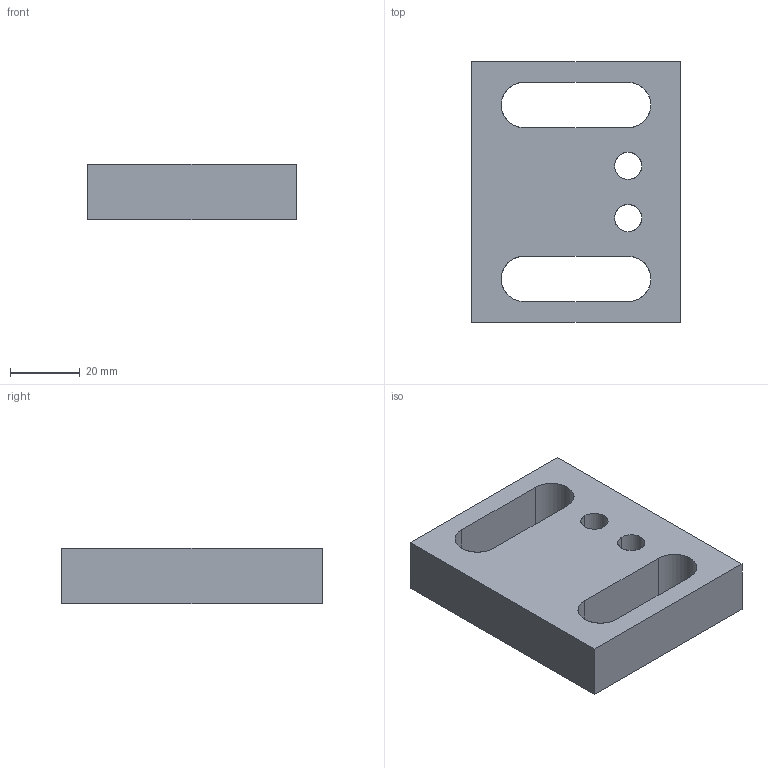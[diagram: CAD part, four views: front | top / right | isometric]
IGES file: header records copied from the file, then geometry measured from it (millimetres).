
Global section: file name: E:\UnigraphicsGraphicData\MISUMI_PRESS-PARTS\IGES\3d_tel16-13_01651_r00.igs; native system: NX V5.0; preprocessor: UGS NX IGES V5.0; author: MISUMI; date: 20110105.163420; units: millimetre
Bounding box: 60 x 75 x 16 mm (x, y, z)
Surface area: 15046.6 mm2 (no closed solid volume)
Topology: 0 solids, 0 shells, 18 faces, 144 edges, 144 vertices
Faces by surface type: bspline 18
